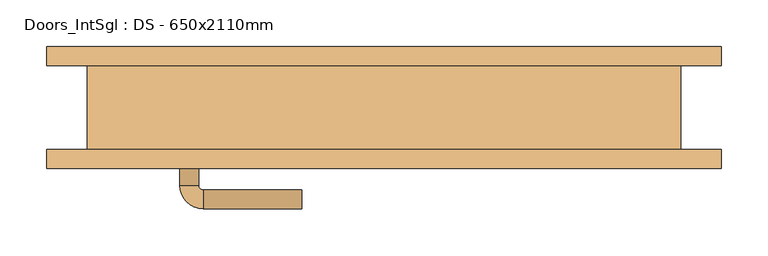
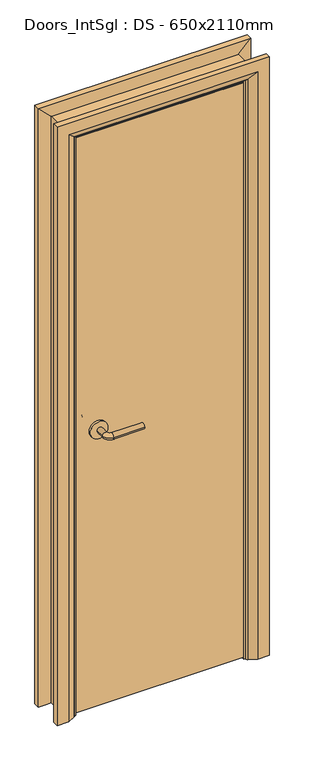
"""IFC4 building model written with IfcOpenShell, lengths in millimetres: door geometry, Doors_IntSgl : DS - 650x2110mm."""

from ifc_helpers import new_model, si_unit, point, frame, frame_2d, origin, place, context, project, spatial, polyline, circle_curve, ellipse_curve, trimmed, segment, composite_curve, outline, extrude, faceted_brep, source, transform, mapped, element, save
from ifc_brep_helpers import plane_surface, cylinder_surface, revolved_surface, advanced_brep


def doors_intsgl_ds_650x2110mm_b960198f(model_context):
    return source(origin(), model_context, "Body", "SolidModel", [
        advanced_brep(
        [(-218.0, 1.0, 1000.0), (-198.0, 1.0, 1000.0), (-218.0, 31.0, 1000.0), (-198.0, 31.0, 1000.0), (-193.0, 36.0, 1000.0), (-193.0, 56.0, 1000.0), (-88.0, 56.0, 1000.0), (-88.0, 36.0, 1000.0)],
        [
            (0, 1, circle_curve(frame((-208.0, 1.0, 1000.0), z_axis=(0.0, -1.0, 0.0), x_axis=(1.0, 0.0, 0.0)), 10.0)),
            (1, 0, circle_curve(frame((-208.0, 1.0, 1000.0), z_axis=(0.0, -1.0, 0.0), x_axis=(1.0, 0.0, 0.0)), 10.0)),
            (0, 2),
            (2, 3, circle_curve(frame((-208.0, 31.0, 1000.0), z_axis=(0.0, -1.0, 0.0), x_axis=(1.0, 0.0, 0.0)), 10.0)),
            (3, 1),
            (3, 2, circle_curve(frame((-208.0, 31.0, 1000.0), z_axis=(0.0, -1.0, 0.0), x_axis=(1.0, 0.0, 0.0)), 10.0)),
            (4, 3, circle_curve(frame((-193.0, 31.0, 1000.0), z_axis=(0.0, 0.0, 1.0), x_axis=(-1.0, 0.0, 0.0)), 5.0)),
            (2, 5, circle_curve(frame((-193.0, 31.0, 1000.0), z_axis=(0.0, 0.0, -1.0), x_axis=(-1.0, 0.0, 0.0)), 25.0)),
            (5, 4, circle_curve(frame((-193.0, 46.0, 1000.0), z_axis=(-1.0, 0.0, 0.0), x_axis=(0.0, -1.0, 0.0)), 10.0)),
            (4, 5, circle_curve(frame((-193.0, 46.0, 1000.0), z_axis=(-1.0, 0.0, 0.0), x_axis=(0.0, -1.0, 0.0)), 10.0)),
            (6, 7, circle_curve(frame((-88.0, 46.0, 1000.0), z_axis=(1.0, 0.0, 0.0), x_axis=(0.0, -1.0, 0.0)), 10.0)),
            (7, 6, circle_curve(frame((-88.0, 46.0, 1000.0), z_axis=(1.0, 0.0, 0.0), x_axis=(0.0, -1.0, 0.0)), 10.0)),
            (5, 6),
            (7, 4),
        ],
        [
            plane_surface(frame((-208.0, 1.0, 1000.0), z_axis=(0.0, -1.0, 0.0), x_axis=(0.0, 0.0, 1.0))),
            cylinder_surface(frame((-208.0, 1.0, 1000.0), z_axis=(0.0, -1.0, 0.0), x_axis=(1.0, 0.0, 0.0)), 10.0),
            revolved_surface(trimmed(ellipse_curve(frame((-208.0, 31.0, 1000.0), z_axis=(0.0, -1.0, 0.0), x_axis=(1.0, 0.0, 0.0)), 10.0, 10.0), [point((-218.0, 31.0, 1000.0))], [point((-198.0, 31.0, 1000.0))], True, "CARTESIAN"), (-193.0, 31.0, 1000.0), (0.0, 0.0, -1.0)),
            revolved_surface(trimmed(ellipse_curve(frame((-208.0, 31.0, 1000.0), z_axis=(0.0, -1.0, 0.0), x_axis=(1.0, 0.0, 0.0)), 10.0, 10.0), [point((-198.0, 31.0, 1000.0))], [point((-218.0, 31.0, 1000.0))], True, "CARTESIAN"), (-193.0, 31.0, 1000.0), (0.0, 0.0, -1.0)),
            plane_surface(frame((-88.0, 46.0, 1000.0), z_axis=(1.0, 0.0, 0.0), x_axis=(0.0, 0.0, 1.0))),
            cylinder_surface(frame((-193.0, 46.0, 1000.0), z_axis=(-1.0, 0.0, 0.0), x_axis=(0.0, -1.0, 0.0)), 10.0),
        ],
        [
            (0, [[1, 2]]),
            (1, [[-1, 3, 4, 5]]),
            (1, [[-2, -5, 6, -3]]),
            (2, [[7, -4, 8, 9]]),
            (3, [[-8, -6, -7, 10]]),
            (4, [[11, 12]]),
            (5, [[-9, 13, -12, 14]]),
            (5, [[-10, -14, -11, -13]]),
        ],
    ),
        extrude(outline(composite_curve([segment(trimmed(circle_curve(frame_2d((1000.0, -210.5)), 30.0), [point((1000.0, -240.5))], [point((1000.0, -180.5))], False, "CARTESIAN"), True, "CONTINUOUS"), segment(trimmed(circle_curve(frame_2d((1000.0, -210.5)), 30.0), [point((1000.0, -180.5))], [point((1000.0, -240.5))], False, "CARTESIAN"), True, "CONTINUOUS")], self_intersect=False)), frame((0.0, -7.0, 0.0), z_axis=(0.0, 1.0, 0.0), x_axis=(0.0, 0.0, 1.0)), (0.0, 0.0, 1.0), 8.0),
        advanced_brep(
        [(-218.0, -53.0, 1000.0), (-198.0, -53.0, 1000.0), (-198.0, -83.0, 1000.0), (-218.0, -83.0, 1000.0), (-193.0, -88.0, 1000.0), (-193.0, -108.0, 1000.0), (-88.0, -108.0, 1000.0), (-88.0, -88.0, 1000.0)],
        [
            (0, 1, circle_curve(frame((-208.0, -53.0, 1000.0), z_axis=(0.0, 1.0, 0.0), x_axis=(1.0, 0.0, 0.0)), 10.0)),
            (1, 0, circle_curve(frame((-208.0, -53.0, 1000.0), z_axis=(0.0, 1.0, 0.0), x_axis=(1.0, 0.0, 0.0)), 10.0)),
            (1, 2),
            (2, 3, circle_curve(frame((-208.0, -83.0, 1000.0), z_axis=(0.0, 1.0, 0.0), x_axis=(1.0, 0.0, 0.0)), 10.0)),
            (3, 0),
            (3, 2, circle_curve(frame((-208.0, -83.0, 1000.0), z_axis=(0.0, 1.0, 0.0), x_axis=(1.0, 0.0, 0.0)), 10.0)),
            (4, 5, circle_curve(frame((-193.0, -98.0, 1000.0), z_axis=(-1.0, 0.0, 0.0), x_axis=(0.0, 1.0, 0.0)), 10.0)),
            (5, 3, circle_curve(frame((-193.0, -83.0, 1000.0), z_axis=(0.0, 0.0, -1.0), x_axis=(-1.0, 0.0, 0.0)), 25.0)),
            (2, 4, circle_curve(frame((-193.0, -83.0, 1000.0), z_axis=(0.0, 0.0, 1.0), x_axis=(-1.0, 0.0, 0.0)), 5.0)),
            (5, 4, circle_curve(frame((-193.0, -98.0, 1000.0), z_axis=(-1.0, 0.0, 0.0), x_axis=(0.0, 1.0, 0.0)), 10.0)),
            (6, 7, circle_curve(frame((-88.0, -98.0, 1000.0), z_axis=(1.0, 0.0, 0.0), x_axis=(0.0, 1.0, 0.0)), 10.0)),
            (7, 6, circle_curve(frame((-88.0, -98.0, 1000.0), z_axis=(1.0, 0.0, 0.0), x_axis=(0.0, 1.0, 0.0)), 10.0)),
            (4, 7),
            (6, 5),
        ],
        [
            plane_surface(frame((-208.0, -53.0, 1000.0), z_axis=(0.0, 1.0, 0.0), x_axis=(0.0, 0.0, 1.0))),
            cylinder_surface(frame((-208.0, -53.0, 1000.0), z_axis=(0.0, 1.0, 0.0), x_axis=(1.0, 0.0, 0.0)), 10.0),
            revolved_surface(trimmed(ellipse_curve(frame((-208.0, -83.0, 1000.0), z_axis=(0.0, -1.0, 0.0), x_axis=(1.0, 0.0, 0.0)), 10.0, 10.0), [point((-218.0, -83.0, 1000.0))], [point((-198.0, -83.0, 1000.0))], True, "CARTESIAN"), (-193.0, -83.0, 1000.0), (0.0, 0.0, -1.0)),
            revolved_surface(trimmed(ellipse_curve(frame((-208.0, -83.0, 1000.0), z_axis=(0.0, -1.0, 0.0), x_axis=(1.0, 0.0, 0.0)), 10.0, 10.0), [point((-198.0, -83.0, 1000.0))], [point((-218.0, -83.0, 1000.0))], True, "CARTESIAN"), (-193.0, -83.0, 1000.0), (0.0, 0.0, -1.0)),
            plane_surface(frame((-88.0, -98.0, 1000.0), z_axis=(1.0, 0.0, 0.0), x_axis=(0.0, 0.0, 1.0))),
            cylinder_surface(frame((-193.0, -98.0, 1000.0), z_axis=(-1.0, 0.0, 0.0), x_axis=(0.0, 1.0, 0.0)), 10.0),
        ],
        [
            (0, [[1, 2]]),
            (1, [[3, 4, 5, -2]]),
            (1, [[-5, 6, -3, -1]]),
            (2, [[7, 8, -4, 9]]),
            (3, [[10, -9, -6, -8]]),
            (4, [[11, 12]]),
            (5, [[13, -11, 14, -7]]),
            (5, [[-14, -12, -13, -10]]),
        ],
    ),
        extrude(outline(composite_curve([segment(trimmed(circle_curve(frame_2d((1000.0, -210.5)), 30.0), [point((1000.0, -240.5))], [point((1000.0, -180.5))], False, "CARTESIAN"), True, "CONTINUOUS"), segment(trimmed(circle_curve(frame_2d((1000.0, -210.5)), 30.0), [point((1000.0, -180.5))], [point((1000.0, -240.5))], False, "CARTESIAN"), True, "CONTINUOUS")], self_intersect=False)), frame((0.0, -53.0, 0.0), z_axis=(0.0, 1.0, 0.0), x_axis=(0.0, 0.0, 1.0)), (0.0, 0.0, 1.0), 8.0),
        extrude(outline(polyline([(283.0, -7.0), (283.0, -45.0), (-283.0, -45.0), (-283.0, -7.0), (283.0, -7.0)])), frame((0.0, 0.0, 8.0), z_axis=(0.0, 0.0, 1.0), x_axis=(1.0, 0.0, 0.0)), (0.0, 0.0, 1.0), 2060.0),
        advanced_brep(
        [(360.0, -65.0, 0.0), (320.0, -65.0, 0.0), (294.0, -51.0, 0.0), (290.0, -45.0, 0.0), (360.0, -45.0, 0.0), (360.0, -45.0, 2145.0), (360.0, -65.0, 2145.0), (290.0, -45.0, 2075.0), (-290.0, -45.0, 2075.0), (-290.0, -45.0, 0.0), (-360.0, -45.0, 0.0), (-360.0, -45.0, 2145.0), (294.0, -51.0, 2079.0), (320.0, -65.0, 2105.0), (-360.0, -65.0, 2145.0), (-360.0, -65.0, 0.0), (-320.0, -65.0, 0.0), (-320.0, -65.0, 2105.0), (-294.0, -51.0, 0.0), (-294.0, -51.0, 2079.0)],
        [
            (0, 1),
            (1, 2),
            (2, 3, circle_curve(frame((298.0, -44.0, 0.0), z_axis=(0.0, 0.0, -1.0), x_axis=(1.0, 0.0, 0.0)), 8.0622577)),
            (3, 4),
            (4, 0),
            (4, 5),
            (5, 6),
            (6, 0),
            (3, 7),
            (7, 8),
            (8, 9),
            (9, 10),
            (10, 11),
            (11, 5),
            (2, 12),
            (12, 7, ellipse_curve(frame((298.0, -44.0, 2083.0), z_axis=(0.7071067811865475, 0.0, -0.7071067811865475), x_axis=(-0.7071067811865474, 0.0, -0.7071067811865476)), 11.4017543, 8.0622577)),
            (1, 13),
            (13, 12),
            (6, 14),
            (14, 15),
            (15, 16),
            (16, 17),
            (17, 13),
            (10, 15),
            (14, 11),
            (9, 18, circle_curve(frame((-298.0, -44.0, 0.0), z_axis=(0.0, 0.0, -1.0), x_axis=(-1.0, 0.0, 0.0)), 8.0622577)),
            (18, 16),
            (19, 18),
            (8, 19, ellipse_curve(frame((-298.0, -44.0, 2083.0), z_axis=(-0.7071067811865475, 0.0, -0.7071067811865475), x_axis=(-0.7071067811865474, 0.0, 0.7071067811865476)), 11.4017543, 8.0622577)),
            (19, 17),
            (12, 19),
        ],
        [
            plane_surface(frame((290.0, -45.0, 0.0), z_axis=(0.0, 0.0, -1.0), x_axis=(0.0, 1.0, 0.0))),
            plane_surface(frame((360.0, -65.0, 0.0), z_axis=(1.0, 0.0, 0.0), x_axis=(0.0, 0.0, 1.0))),
            plane_surface(frame((360.0, -45.0, 0.0), z_axis=(0.0, 1.0, 0.0), x_axis=(0.0, 0.0, 1.0))),
            cylinder_surface(frame((298.0, -44.0, 0.0), z_axis=(0.0, 0.0, -1.0), x_axis=(1.0, 0.0, 0.0)), 8.0622577),
            plane_surface(frame((294.0, -51.0, 0.0), z_axis=(-0.4740998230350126, -0.880471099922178, 0.0), x_axis=(0.0, 0.0, 1.0))),
            plane_surface(frame((320.0, -65.0, 0.0), z_axis=(0.0, -1.0, 0.0), x_axis=(0.0, 0.0, 1.0))),
            plane_surface(frame((-360.0, -65.0, 2145.0), z_axis=(-1.0, 0.0, 0.0), x_axis=(0.0, 0.0, -1.0))),
            plane_surface(frame((-290.0, -45.0, 0.0), z_axis=(0.0, 0.0, -1.0), x_axis=(0.0, 1.0, 0.0))),
            cylinder_surface(frame((-298.0, -44.0, 2075.0), z_axis=(0.0, 0.0, 1.0), x_axis=(-1.0, 0.0, 0.0)), 8.0622577),
            plane_surface(frame((-294.0, -51.0, 2079.0), z_axis=(0.47409982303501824, -0.8804710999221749, 0.0), x_axis=(0.0, 0.0, -1.0))),
            plane_surface(frame((360.0, -65.0, 2145.0), z_axis=(0.0, 0.0, 1.0), x_axis=(-1.0, 0.0, 0.0))),
            cylinder_surface(frame((290.0, -44.0, 2083.0), z_axis=(1.0, 0.0, 0.0), x_axis=(0.0, 0.0, 1.0)), 8.0622577),
            plane_surface(frame((294.0, -51.0, 2079.0), z_axis=(0.0, -0.8804710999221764, -0.4740998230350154), x_axis=(-1.0, 0.0, 0.0))),
        ],
        [
            (0, [[1, 2, 3, 4, 5]]),
            (1, [[6, 7, 8, -5]]),
            (2, [[9, 10, 11, 12, 13, 14, -6, -4]]),
            (3, [[15, 16, -9, -3]]),
            (4, [[17, 18, -15, -2]]),
            (5, [[-8, 19, 20, 21, 22, 23, -17, -1]]),
            (6, [[-13, 24, -20, 25]]),
            (7, [[-24, -12, 26, 27, -21]]),
            (8, [[28, -26, -11, 29]]),
            (9, [[-22, -27, -28, 30]]),
            (10, [[-14, -25, -19, -7]]),
            (11, [[31, -29, -10, -16]]),
            (12, [[-23, -30, -31, -18]]),
        ],
    ),
        extrude(outline(polyline([(0.0, -266.0), (2051.0, -266.0), (2051.0, 266.0), (0.0, 266.0), (0.0, 285.0), (2070.0, 285.0), (2070.0, -285.0), (0.0, -285.0), (0.0, -266.0)])), frame((0.0, -5.0, 0.0), z_axis=(0.0, 1.0, 0.0), x_axis=(0.0, 0.0, 1.0)), (0.0, 0.0, 1.0), 32.0),
        advanced_brep(
        [(-360.0, 65.0, 0.0), (-320.0, 65.0, 0.0), (-294.0, 51.0, 0.0), (-290.0, 45.0, 0.0), (-360.0, 45.0, 0.0), (-360.0, 45.0, 2145.0), (-360.0, 65.0, 2145.0), (-290.0, 45.0, 2075.0), (-294.0, 51.0, 2079.0), (-320.0, 65.0, 2105.0), (360.0, 65.0, 0.0), (360.0, 45.0, 0.0), (290.0, 45.0, 0.0), (294.0, 51.0, 0.0), (320.0, 65.0, 0.0), (360.0, 65.0, 2145.0), (320.0, 65.0, 2105.0), (294.0, 51.0, 2079.0), (290.0, 45.0, 2075.0), (360.0, 45.0, 2145.0)],
        [
            (0, 1),
            (1, 2),
            (2, 3, circle_curve(frame((-298.0, 44.0, 0.0), z_axis=(0.0, 0.0, -1.0), x_axis=(-1.0, 0.0, 0.0)), 8.0622577)),
            (3, 4),
            (4, 0),
            (4, 5),
            (5, 6),
            (6, 0),
            (3, 7),
            (7, 5),
            (2, 8),
            (8, 7, ellipse_curve(frame((-298.0, 44.0, 2083.0), z_axis=(-0.7071067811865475, 0.0, -0.7071067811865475), x_axis=(0.7071067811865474, 0.0, -0.7071067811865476)), 11.4017543, 8.0622577)),
            (1, 9),
            (9, 8),
            (6, 9),
            (10, 11),
            (11, 12),
            (12, 13, circle_curve(frame((298.0, 44.0, 0.0), z_axis=(0.0, 0.0, -1.0), x_axis=(1.0, 0.0, 0.0)), 8.0622577)),
            (13, 14),
            (14, 10),
            (15, 10),
            (14, 16),
            (16, 15),
            (13, 17),
            (17, 16),
            (12, 18),
            (18, 17, ellipse_curve(frame((298.0, 44.0, 2083.0), z_axis=(0.7071067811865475, 0.0, -0.7071067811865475), x_axis=(0.7071067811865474, 0.0, 0.7071067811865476)), 11.4017543, 8.0622577)),
            (11, 19),
            (19, 18),
            (15, 19),
            (5, 19),
            (15, 6),
            (7, 18),
            (8, 17),
            (9, 16),
        ],
        [
            plane_surface(frame((-290.0, 117.8010989, 0.0), z_axis=(0.0, 0.0, -1.0), x_axis=(1.0, 0.0, 0.0))),
            plane_surface(frame((-360.0, 65.0, 0.0), z_axis=(-1.0, 0.0, 0.0), x_axis=(0.0, 0.0, 1.0))),
            plane_surface(frame((-360.0, 45.0, 0.0), z_axis=(0.0, -1.0, 0.0), x_axis=(0.0, 0.0, 1.0))),
            cylinder_surface(frame((-298.0, 44.0, 0.0), z_axis=(0.0, 0.0, -1.0), x_axis=(-1.0, 0.0, 0.0)), 8.0622577),
            plane_surface(frame((-294.0, 51.0, 0.0), z_axis=(0.4740998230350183, 0.8804710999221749, 0.0), x_axis=(0.0, 0.0, 1.0))),
            plane_surface(frame((-320.0, 65.0, 0.0), z_axis=(0.0, 1.0, 0.0), x_axis=(0.0, 0.0, 1.0))),
            plane_surface(frame((290.0, 117.8010989, 0.0), z_axis=(0.0, 0.0, -1.0), x_axis=(-1.0, 0.0, 0.0))),
            plane_surface(frame((320.0, 65.0, 2105.0), z_axis=(0.0, 1.0, 0.0), x_axis=(0.0, 0.0, -1.0))),
            plane_surface(frame((294.0, 51.0, 2079.0), z_axis=(-0.4740998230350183, 0.8804710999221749, 0.0), x_axis=(0.0, 0.0, -1.0))),
            cylinder_surface(frame((298.0, 44.0, 2075.0), z_axis=(0.0, 0.0, 1.0), x_axis=(1.0, 0.0, 0.0)), 8.0622577),
            plane_surface(frame((360.0, 45.0, 2145.0), z_axis=(0.0, -1.0, 0.0), x_axis=(0.0, 0.0, -1.0))),
            plane_surface(frame((360.0, 65.0, 2145.0), z_axis=(1.0, 0.0, 0.0), x_axis=(0.0, 0.0, -1.0))),
            plane_surface(frame((-360.0, 65.0, 2145.0), z_axis=(0.0, 0.0, 1.0), x_axis=(1.0, 0.0, 0.0))),
            plane_surface(frame((-360.0, 45.0, 2145.0), z_axis=(0.0, -1.0, 0.0), x_axis=(1.0, 0.0, 0.0))),
            cylinder_surface(frame((-290.0, 44.0, 2083.0), z_axis=(-1.0, 0.0, 0.0), x_axis=(0.0, 0.0, 1.0)), 8.0622577),
            plane_surface(frame((-294.0, 51.0, 2079.0), z_axis=(0.0, 0.8804710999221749, -0.4740998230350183), x_axis=(1.0, 0.0, 0.0))),
            plane_surface(frame((-320.0, 65.0, 2105.0), z_axis=(0.0, 1.0, 0.0), x_axis=(1.0, 0.0, 0.0))),
        ],
        [
            (0, [[1, 2, 3, 4, 5]]),
            (1, [[6, 7, 8, -5]]),
            (2, [[9, 10, -6, -4]]),
            (3, [[11, 12, -9, -3]]),
            (4, [[13, 14, -11, -2]]),
            (5, [[-8, 15, -13, -1]]),
            (6, [[16, 17, 18, 19, 20]]),
            (7, [[21, -20, 22, 23]]),
            (8, [[-22, -19, 24, 25]]),
            (9, [[-24, -18, 26, 27]]),
            (10, [[-26, -17, 28, 29]]),
            (11, [[-28, -16, -21, 30]]),
            (12, [[31, -30, 32, -7]]),
            (13, [[33, -29, -31, -10]]),
            (14, [[34, -27, -33, -12]]),
            (15, [[35, -25, -34, -14]]),
            (16, [[-32, -23, -35, -15]]),
        ],
    ),
        faceted_brep([(-285.0, -45.0, 0.0), (-317.0, -45.0, 0.0), (-317.0, 45.0, 0.0), (-285.0, 45.0, 0.0), (-285.0, 45.0, 2070.0), (-285.0, -45.0, 2070.0), (-317.0, 45.0, 2102.0), (-317.0, -45.0, 2102.0), (285.0, -45.0, 0.0), (285.0, 45.0, 0.0), (317.0, 45.0, 0.0), (317.0, -45.0, 0.0), (285.0, -45.0, 2070.0), (317.0, -45.0, 2102.0), (317.0, 45.0, 2102.0), (285.0, 45.0, 2070.0)], [[[0, 1, 2, 3]], [[3, 4, 5, 0]], [[2, 6, 4, 3]], [[1, 7, 6, 2]], [[0, 5, 7, 1]], [[8, 9, 10, 11]], [[12, 8, 11, 13]], [[13, 11, 10, 14]], [[14, 10, 9, 15]], [[15, 9, 8, 12]], [[4, 15, 12, 5]], [[6, 14, 15, 4]], [[7, 13, 14, 6]], [[5, 12, 13, 7]]]),
    ])


if __name__ == "__main__":
    model = new_model("IFC4")
    model_context = context("Model", 3, world=origin())
    ifc_project = project(units=[si_unit("LENGTHUNIT", "METRE", prefix="MILLI")], contexts=[model_context])
    site = spatial("IfcSite", under=ifc_project)
    building = spatial("IfcBuilding", under=site)
    placement = place(None, origin())
    doors_intsgl_ds_650x2110mm_shape = doors_intsgl_ds_650x2110mm_b960198f(model_context)
    element("IfcDoor", 1, ObjectType="Doors_IntSgl : DS - 650x2110mm", at=placement, inside=building, context=model_context, shape_type="MappedRepresentation", body=[
        mapped(doors_intsgl_ds_650x2110mm_shape, transform((0.0, 0.0, 0.0), x_axis=(1.0, 0.0, 0.0), y_axis=(0.0, 1.0, 0.0), z_axis=(0.0, 0.0, 1.0))),
    ])
    save(model, "model.ifc")
